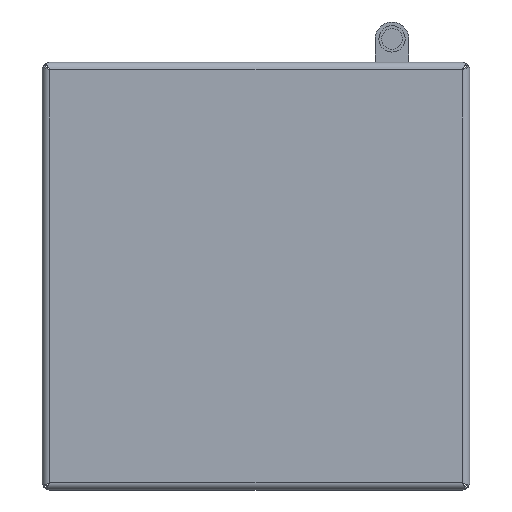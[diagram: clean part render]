
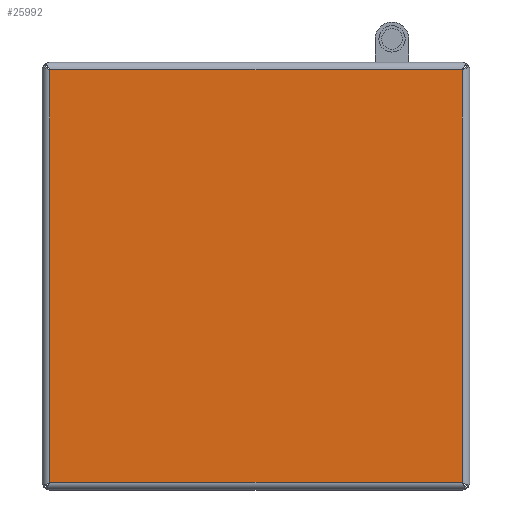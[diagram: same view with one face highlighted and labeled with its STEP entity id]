
A CAD part, front view. The second image highlights one B-rep face of the part: STEP entity #25992.
In plain terms, the highlighted planar face has unit normal (0, -1, 0).
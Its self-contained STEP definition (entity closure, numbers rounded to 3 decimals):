
#7732=DIRECTION('',(0.,0.,1.));
#7733=VECTOR('',#7732,219.9);
#7734=CARTESIAN_POINT('',(109.95,-55.2,-109.95));
#7735=LINE('',#7734,#7733);
#7763=DIRECTION('',(-1.,0.,0.));
#7764=VECTOR('',#7763,219.9);
#7765=CARTESIAN_POINT('',(109.95,-55.2,109.95));
#7766=LINE('',#7765,#7764);
#7800=CARTESIAN_POINT('',(-109.95,-55.2,-109.95));
#7802=DIRECTION('',(1.,0.,0.));
#7803=VECTOR('',#7802,219.9);
#7804=CARTESIAN_POINT('',(-109.95,-55.2,-109.95));
#7805=LINE('',#7804,#7803);
#7806=CARTESIAN_POINT('',(109.95,-55.2,-109.95));
#8006=DIRECTION('',(0.,0.,-1.));
#8007=VECTOR('',#8006,219.9);
#8008=CARTESIAN_POINT('',(-109.95,-55.2,109.95));
#8009=LINE('',#8008,#8007);
#9810=VERTEX_POINT('',#7800);
#9814=VERTEX_POINT('',#7806);
#9815=CARTESIAN_POINT('',(109.95,-55.2,109.95));
#9816=CARTESIAN_POINT('',(-109.95,-55.2,109.95));
#9817=VERTEX_POINT('',#9815);
#9818=VERTEX_POINT('',#9816);
#25978=CARTESIAN_POINT('',(0.,-55.2,0.));
#25979=DIRECTION('',(0.,1.,0.));
#25980=DIRECTION('',(0.,0.,1.));
#25981=AXIS2_PLACEMENT_3D('',#25978,#25979,#25980);
#25982=PLANE('',#25981);
#25984=ORIENTED_EDGE('',*,*,#25983,.F.);
#25985=ORIENTED_EDGE('',*,*,#25946,.F.);
#25987=ORIENTED_EDGE('',*,*,#25986,.F.);
#25989=ORIENTED_EDGE('',*,*,#25988,.F.);
#25990=EDGE_LOOP('',(#25984,#25985,#25987,#25989));
#25991=FACE_OUTER_BOUND('',#25990,.F.);
#25992=ADVANCED_FACE('',(#25991),#25982,.F.);
#25946=EDGE_CURVE('',#9814,#9817,#7735,.T.);
#25983=EDGE_CURVE('',#9817,#9818,#7766,.T.);
#25986=EDGE_CURVE('',#9810,#9814,#7805,.T.);
#25988=EDGE_CURVE('',#9818,#9810,#8009,.T.);
